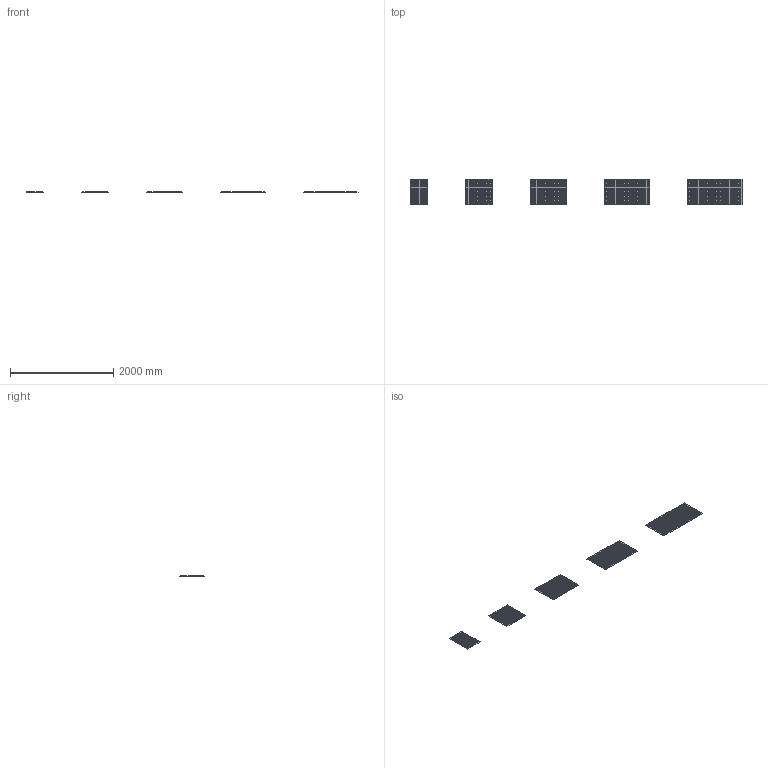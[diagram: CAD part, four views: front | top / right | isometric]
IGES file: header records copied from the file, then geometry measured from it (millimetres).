
Start section: Data from Parasolid IGES Translator 19.0.9, Copyright(c) 2006 Siemens PL M Software. All Rights Reserved.
Global section: file name: noorth-FJ-embossed aluminium shelf.igs; native system: By Siemens PLM Incorporated; preprocessor: XPlus GENERIC/IGES 19.0.9; author: Noname; organization: Noname; date: 20200507.121129; units: metre
Bounding box: 6424.29 x 501.2 x 4 mm (x, y, z)
Volume: 3586115 mm3; surface area: 3687404.5 mm2
Topology: 2570 solids, 2570 shells, 7725 faces, 7755 edges, 5170 vertices
Faces by surface type: plane 5160, cylinder 2565
Full cylindrical faces by diameter (mm): 4.798 x2565
